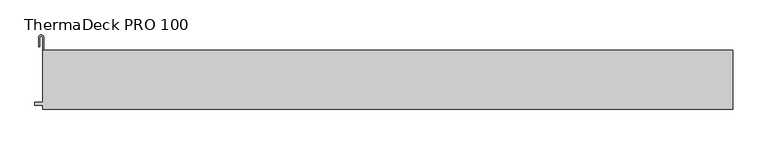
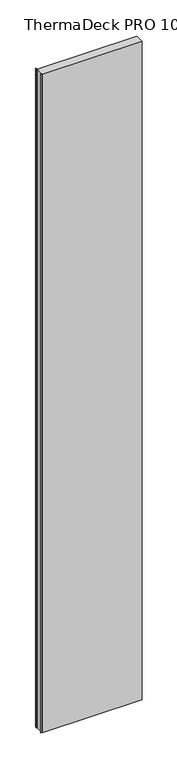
"""IFC4 building model written with IfcOpenShell, lengths in millimetres: plate geometry, Europanels_ThermaDeck PRO_Vt : ThermaDeck PRO 100."""

from ifc_helpers import new_model, si_unit, point, frame_2d, origin, origin_with_axes, place, context, project, spatial, polyline, circle_curve, trimmed, segment, composite_curve, outline, extrude, source, transform, mapped, element, save


def thermadeck_pro_100_f66c599b(model_context):
    return source(origin(), model_context, "Body", "SweptSolid", [
        extrude(outline(polyline([(-594.0, -50.0), (-594.0, -44.0), (-606.9631544, -44.0), (-606.9631544, -38.8855682), (-594.0, -38.8855682), (-594.0, 50.0), (582.0447029, 50.0), (582.0447029, -50.0), (-594.0, -50.0)])), origin_with_axes(), (0.0, 0.0, 1.0), 8180.0),
        extrude(outline(composite_curve([segment(polyline([(-592.0, 72.0237285), (-592.0, 50.0), (-594.0, 50.0), (-594.0, 72.0237285)]), True, "CONTINUOUS"), segment(trimmed(circle_curve(frame_2d((-596.1885138, 72.0237285)), 2.1885138), [point((-594.0, 72.0237285))], [point((-598.3770276, 72.0237285))], True, "CARTESIAN"), True, "CONTINUOUS"), segment(polyline([(-598.3770276, 72.0237285), (-598.3770276, 56.0558472), (-600.3770276, 56.0558472), (-600.3770276, 72.0237285)]), True, "CONTINUOUS"), segment(trimmed(circle_curve(frame_2d((-596.1885138, 72.0237285)), 4.1885138), [point((-600.3770276, 72.0237285))], [point((-592.0, 72.0237285))], False, "CARTESIAN"), True, "CONTINUOUS")], self_intersect=False)), origin_with_axes(), (0.0, 0.0, 1.0), 8180.0),
    ])


if __name__ == "__main__":
    model = new_model("IFC4")
    model_context = context("Model", 3, world=origin())
    ifc_project = project(units=[si_unit("LENGTHUNIT", "METRE", prefix="MILLI")], contexts=[model_context])
    site = spatial("IfcSite", under=ifc_project)
    building = spatial("IfcBuilding", under=site)
    placement = place(None, origin())
    thermadeck_pro_100_shape = thermadeck_pro_100_f66c599b(model_context)
    element("IfcPlate", 1, ObjectType="Europanels_ThermaDeck PRO_Vt : ThermaDeck PRO 100", at=placement, inside=building, context=model_context, shape_type="MappedRepresentation", body=[
        mapped(thermadeck_pro_100_shape, transform((0.0, 0.0, 0.0), x_axis=(1.0, 0.0, 0.0), y_axis=(0.0, 1.0, 0.0), z_axis=(0.0, 0.0, 1.0))),
    ])
    save(model, "model.ifc")
